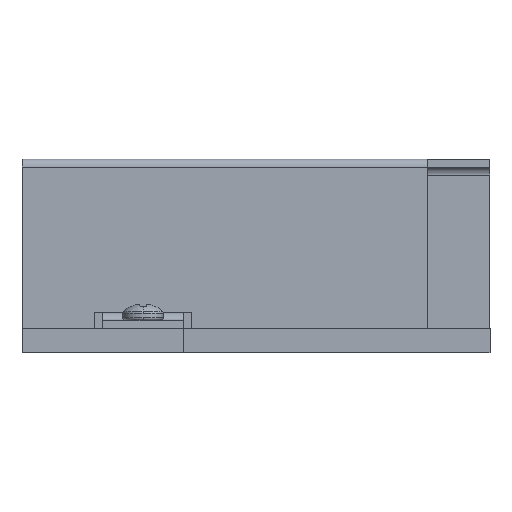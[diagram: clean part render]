
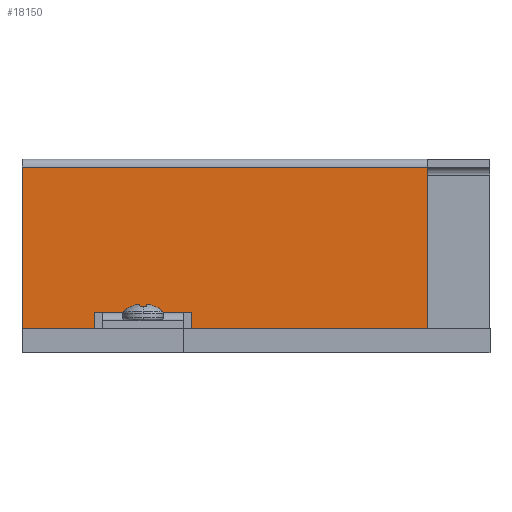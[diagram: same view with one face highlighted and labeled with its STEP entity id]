
A CAD part, front view. The second image highlights one B-rep face of the part: STEP entity #18150.
In plain terms, the highlighted planar face has unit normal (0, -1, 0) as drawn and (-1, 0, 0) by its records, which use the part's own axes.
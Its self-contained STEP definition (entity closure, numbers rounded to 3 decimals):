
#920 = VERTEX_POINT ( 'NONE', #10830 ) ;
#1159 = ORIENTED_EDGE ( 'NONE', *, *, #5286, .F. ) ;
#1201 = VERTEX_POINT ( 'NONE', #13556 ) ;
#1210 = EDGE_CURVE ( 'NONE', #10023, #14194, #8217, .T. ) ;
#1530 = VECTOR ( 'NONE', #7578, 1000. ) ;
#1555 = VECTOR ( 'NONE', #3368, 1000. ) ;
#1724 = DIRECTION ( 'NONE',  ( 0., -1., 0. ) ) ;
#1828 = EDGE_CURVE ( 'NONE', #9242, #16522, #12523, .T. ) ;
#1829 = EDGE_LOOP ( 'NONE', ( #18293, #2217, #7912, #16451, #5353, #1159, #3502, #12475, #15789, #2487 ) ) ;
#2217 = ORIENTED_EDGE ( 'NONE', *, *, #1210, .T. ) ;
#2487 = ORIENTED_EDGE ( 'NONE', *, *, #18792, .F. ) ;
#3368 = DIRECTION ( 'NONE',  ( 0., 1., 0. ) ) ;
#3456 = CARTESIAN_POINT ( 'NONE',  ( 5.414, 2., 20. ) ) ;
#3502 = ORIENTED_EDGE ( 'NONE', *, *, #16308, .F. ) ;
#3643 = CARTESIAN_POINT ( 'NONE',  ( 5.414, 0., 50.2 ) ) ;
#4074 = VERTEX_POINT ( 'NONE', #18433 ) ;
#4131 = VECTOR ( 'NONE', #7873, 1000. ) ;
#4625 = DIRECTION ( 'NONE',  ( 1., 0., 0. ) ) ;
#4732 = CARTESIAN_POINT ( 'NONE',  ( 5.414, 21., 0. ) ) ;
#5143 = LINE ( 'NONE', #12760, #16853 ) ;
#5286 = EDGE_CURVE ( 'NONE', #17884, #9242, #8035, .T. ) ;
#5332 = VERTEX_POINT ( 'NONE', #15228 ) ;
#5353 = ORIENTED_EDGE ( 'NONE', *, *, #1828, .F. ) ;
#5427 = AXIS2_PLACEMENT_3D ( 'NONE', #14810, #4625, #7822 ) ;
#5507 = DIRECTION ( 'NONE',  ( 0., 0., -1. ) ) ;
#5604 = CARTESIAN_POINT ( 'NONE',  ( 5.414, 0., 9. ) ) ;
#5859 = CARTESIAN_POINT ( 'NONE',  ( 5.414, 20., 58. ) ) ;
#6085 = LINE ( 'NONE', #5859, #1530 ) ;
#6950 = DIRECTION ( 'NONE',  ( 0., 1., 0. ) ) ;
#7535 = LINE ( 'NONE', #3456, #14864 ) ;
#7578 = DIRECTION ( 'NONE',  ( 0., 0., -1. ) ) ;
#7711 = CARTESIAN_POINT ( 'NONE',  ( 5.414, 20., 50.2 ) ) ;
#7822 = DIRECTION ( 'NONE',  ( 0., 1., 0. ) ) ;
#7873 = DIRECTION ( 'NONE',  ( 0., -1., 0. ) ) ;
#7912 = ORIENTED_EDGE ( 'NONE', *, *, #14840, .T. ) ;
#7941 = CARTESIAN_POINT ( 'NONE',  ( 5.414, 0., 9. ) ) ;
#8035 = LINE ( 'NONE', #7941, #4131 ) ;
#8144 = VERTEX_POINT ( 'NONE', #11051 ) ;
#8217 = LINE ( 'NONE', #15025, #1555 ) ;
#8589 = CARTESIAN_POINT ( 'NONE',  ( 5.414, 0., 58. ) ) ;
#8601 = LINE ( 'NONE', #10478, #16851 ) ;
#9242 = VERTEX_POINT ( 'NONE', #5604 ) ;
#9551 = EDGE_CURVE ( 'NONE', #5332, #8144, #5143, .T. ) ;
#10023 = VERTEX_POINT ( 'NONE', #3643 ) ;
#10285 = DIRECTION ( 'NONE',  ( 0., 0., -1. ) ) ;
#10409 = LINE ( 'NONE', #4732, #17282 ) ;
#10478 = CARTESIAN_POINT ( 'NONE',  ( 5.414, 2., 10. ) ) ;
#10710 = VECTOR ( 'NONE', #5507, 1000. ) ;
#10830 = CARTESIAN_POINT ( 'NONE',  ( 5.414, 2., 10. ) ) ;
#10997 = CARTESIAN_POINT ( 'NONE',  ( 5.414, 2., 9. ) ) ;
#11051 = CARTESIAN_POINT ( 'NONE',  ( 5.414, 2., 20. ) ) ;
#12475 = ORIENTED_EDGE ( 'NONE', *, *, #13218, .T. ) ;
#12509 = DIRECTION ( 'NONE',  ( 0., 0., -1. ) ) ;
#12523 = LINE ( 'NONE', #8589, #18735 ) ;
#12760 = CARTESIAN_POINT ( 'NONE',  ( 5.414, 2., 20. ) ) ;
#12887 = CARTESIAN_POINT ( 'NONE',  ( 5.414, 0., 58. ) ) ;
#13110 = FACE_OUTER_BOUND ( 'NONE', #1829, .T. ) ;
#13154 = PLANE ( 'NONE',  #5427 ) ;
#13218 = EDGE_CURVE ( 'NONE', #920, #8144, #7535, .T. ) ;
#13549 = VECTOR ( 'NONE', #6950, 1000. ) ;
#13556 = CARTESIAN_POINT ( 'NONE',  ( 5.414, 0., 21. ) ) ;
#13703 = DIRECTION ( 'NONE',  ( 0., 0., 1. ) ) ;
#13995 = CARTESIAN_POINT ( 'NONE',  ( 5.414, 0., 21. ) ) ;
#14015 = LINE ( 'NONE', #13995, #13549 ) ;
#14194 = VERTEX_POINT ( 'NONE', #7711 ) ;
#14394 = EDGE_CURVE ( 'NONE', #10023, #1201, #15965, .T. ) ;
#14810 = CARTESIAN_POINT ( 'NONE',  ( 5.414, 21., 58. ) ) ;
#14840 = EDGE_CURVE ( 'NONE', #14194, #4074, #6085, .T. ) ;
#14864 = VECTOR ( 'NONE', #13703, 1000. ) ;
#15025 = CARTESIAN_POINT ( 'NONE',  ( 5.414, 21., 50.2 ) ) ;
#15228 = CARTESIAN_POINT ( 'NONE',  ( 5.414, 2., 21. ) ) ;
#15789 = ORIENTED_EDGE ( 'NONE', *, *, #9551, .F. ) ;
#15793 = DIRECTION ( 'NONE',  ( 0., 0., -1. ) ) ;
#15957 = CARTESIAN_POINT ( 'NONE',  ( 5.414, 0., 0. ) ) ;
#15965 = LINE ( 'NONE', #12887, #10710 ) ;
#16308 = EDGE_CURVE ( 'NONE', #920, #17884, #8601, .T. ) ;
#16451 = ORIENTED_EDGE ( 'NONE', *, *, #17193, .T. ) ;
#16522 = VERTEX_POINT ( 'NONE', #15957 ) ;
#16851 = VECTOR ( 'NONE', #10285, 1000. ) ;
#16853 = VECTOR ( 'NONE', #12509, 1000. ) ;
#17193 = EDGE_CURVE ( 'NONE', #4074, #16522, #10409, .T. ) ;
#17282 = VECTOR ( 'NONE', #1724, 1000. ) ;
#17884 = VERTEX_POINT ( 'NONE', #10997 ) ;
#18150 = ADVANCED_FACE ( 'NONE', ( #13110 ), #13154, .F. ) ;
#18293 = ORIENTED_EDGE ( 'NONE', *, *, #14394, .F. ) ;
#18433 = CARTESIAN_POINT ( 'NONE',  ( 5.414, 20., 0. ) ) ;
#18735 = VECTOR ( 'NONE', #15793, 1000. ) ;
#18792 = EDGE_CURVE ( 'NONE', #1201, #5332, #14015, .T. ) ;
